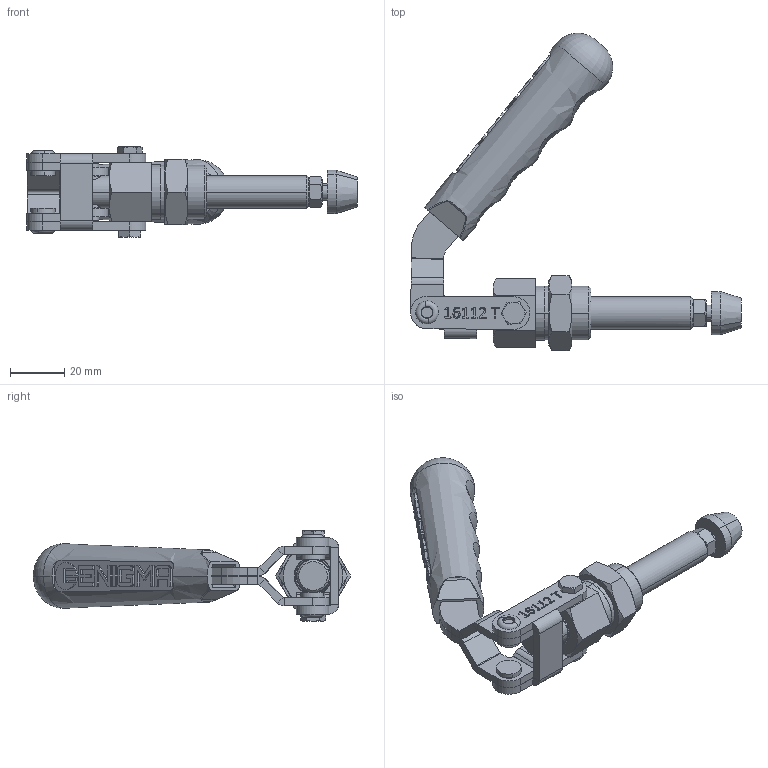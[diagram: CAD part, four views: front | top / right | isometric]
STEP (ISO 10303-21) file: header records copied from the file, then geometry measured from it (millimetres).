
FILE_DESCRIPTION (( 'STEP AP203' ), '1' );
FILE_NAME ('16112_T.STEP', '2022-11-28T08:29:24', ( '' ), ( '' ), 'SwSTEP 2.0', 'SolidWorks 2023', '' );
FILE_SCHEMA (( 'CONFIG_CONTROL_DESIGN' ));
Length unit declared in the file: millimetre
Products named in the file (14): 1604_Mafsal_Varsayılan; M5x6x10_Varsayılan; 1603_Mil_Varsayılan; C90_T(YENİ_TUTAMAK)_Varsayılan; KASTAS-K52-12X16_5X3_6-4_8_Varsayılan; M6 Somun_Varsayılan; 1604_Pim_6x10_Varsayılan; 16112_T; M20x1_5x8 Somun_Varsayılan; 1603_Kademeli Pim Uzun_Varsayılan; 1604_Hareket Kolu_Varsayılan; M6 Baskı_Varsayılan; Aynalama1604_Hareket Kolu_Varsayılan; 1604_TozKeçeliAltıgenGovde_Varsayılan
Assembly tree (16 placements, depth 2):
  16112_T
    1604_TozKeçeliAltıgenGovde_Varsayılan
    KASTAS-K52-12X16_5X3_6-4_8_Varsayılan  x2
    1603_Mil_Varsayılan
    1604_Hareket Kolu_Varsayılan
    1604_Mafsal_Varsayılan
    M20x1_5x8 Somun_Varsayılan
    M6 Baskı_Varsayılan
    M6 Somun_Varsayılan
    M5x6x10_Varsayılan  x2
    1604_Pim_6x10_Varsayılan  x2
    Aynalama1604_Hareket Kolu_Varsayılan
    1603_Kademeli Pim Uzun_Varsayılan
    C90_T(YENİ_TUTAMAK)_Varsayılan
Bounding box: 121.96 x 117.09 x 33.4 mm (x, y, z)
Volume: 60355.8 mm3; surface area: 39373.5 mm2
Topology: 16 solids, 16 shells, 858 faces, 2105 edges, 1322 vertices
Faces by surface type: plane 422, cylinder 170, bspline 126, cone 112, torus 24, sphere 4
Entity records: 32946 total; most frequent: CARTESIAN_POINT 14306, ORIENTED_EDGE 3702, DIRECTION 3220, EDGE_CURVE 1851, VERTEX_POINT 1169, LINE 1102, VECTOR 1102, AXIS2_PLACEMENT_3D 1059
